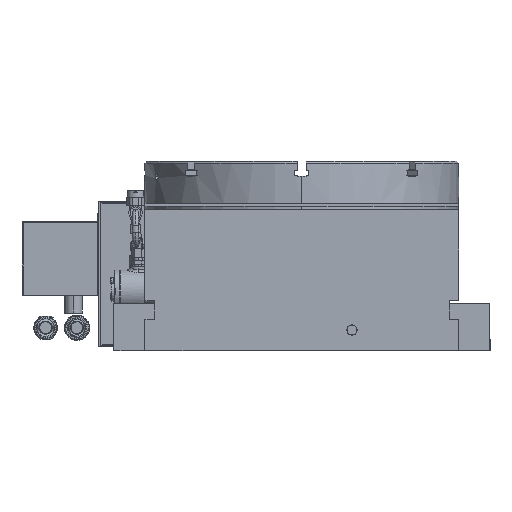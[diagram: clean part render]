
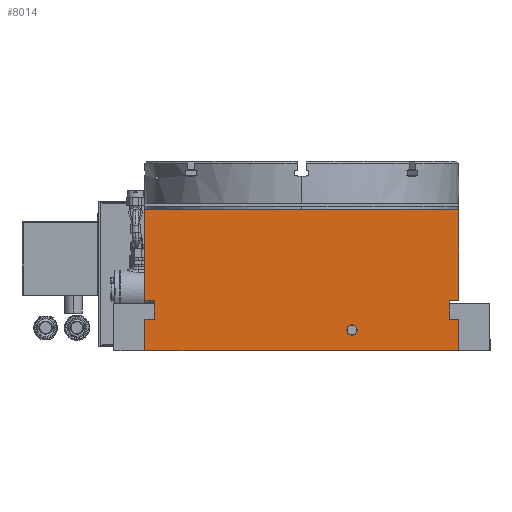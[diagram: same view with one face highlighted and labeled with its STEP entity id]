
A CAD part, left-side view. The second image highlights one B-rep face of the part: STEP entity #8014.
In plain terms, the highlighted planar face has unit normal (-1, 0, 0).
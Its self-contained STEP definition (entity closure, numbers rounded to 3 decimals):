
#106 = VERTEX_POINT ( 'NONE', #33203 ) ;
#201 = AXIS2_PLACEMENT_3D ( 'NONE', #4192, #27885, #41044 ) ;
#878 = EDGE_CURVE ( 'NONE', #12584, #15006, #23550, .T. ) ;
#1441 = CARTESIAN_POINT ( 'NONE',  ( -250., -80., -62. ) ) ;
#2326 = LINE ( 'NONE', #41580, #28824 ) ;
#2517 = CARTESIAN_POINT ( 'NONE',  ( -250., -250., -95. ) ) ;
#3920 = ORIENTED_EDGE ( 'NONE', *, *, #8910, .F. ) ;
#4116 = CARTESIAN_POINT ( 'NONE',  ( -250., 250., -95. ) ) ;
#4192 = CARTESIAN_POINT ( 'NONE',  ( -250., 250., -95. ) ) ;
#4542 = CARTESIAN_POINT ( 'NONE',  ( -250., 250., -95. ) ) ;
#4824 = PLANE ( 'NONE',  #201 ) ;
#4911 = DIRECTION ( 'NONE',  ( 0., 0., 1. ) ) ;
#5197 = CARTESIAN_POINT ( 'NONE',  ( -250., -235., -45. ) ) ;
#5492 = LINE ( 'NONE', #32242, #7573 ) ;
#6242 = VERTEX_POINT ( 'NONE', #5197 ) ;
#6752 = CARTESIAN_POINT ( 'NONE',  ( -250., -250., -95. ) ) ;
#6787 = ORIENTED_EDGE ( 'NONE', *, *, #32189, .T. ) ;
#7038 = ORIENTED_EDGE ( 'NONE', *, *, #16305, .T. ) ;
#7176 = ORIENTED_EDGE ( 'NONE', *, *, #31126, .F. ) ;
#7202 = EDGE_CURVE ( 'NONE', #32414, #21957, #18889, .T. ) ;
#7573 = VECTOR ( 'NONE', #19292, 1000. ) ;
#7742 = CARTESIAN_POINT ( 'NONE',  ( -250., 250., -45. ) ) ;
#8014 = ADVANCED_FACE ( 'NONE', ( #17340, #33753 ), #4824, .F. ) ;
#8346 = DIRECTION ( 'NONE',  ( 0., -1., 0. ) ) ;
#8674 = CARTESIAN_POINT ( 'NONE',  ( -250., 250., -95. ) ) ;
#8910 = EDGE_CURVE ( 'NONE', #34027, #24958, #2326, .T. ) ;
#9707 = ORIENTED_EDGE ( 'NONE', *, *, #25030, .T. ) ;
#10018 = CARTESIAN_POINT ( 'NONE',  ( -250., -250., -15. ) ) ;
#10919 = DIRECTION ( 'NONE',  ( -1., 0., 0. ) ) ;
#12155 = VECTOR ( 'NONE', #8346, 1000. ) ;
#12584 = VERTEX_POINT ( 'NONE', #8674 ) ;
#12914 = VECTOR ( 'NONE', #37548, 1000. ) ;
#13067 = DIRECTION ( 'NONE',  ( 0., 0., -1. ) ) ;
#13392 = DIRECTION ( 'NONE',  ( 0., 0., 1. ) ) ;
#13696 = LINE ( 'NONE', #30078, #31518 ) ;
#14185 = DIRECTION ( 'NONE',  ( -1., 0., 0. ) ) ;
#14391 = CARTESIAN_POINT ( 'NONE',  ( -250., 0., 130. ) ) ;
#14817 = VERTEX_POINT ( 'NONE', #33107 ) ;
#14893 = LINE ( 'NONE', #4542, #12914 ) ;
#15006 = VERTEX_POINT ( 'NONE', #7742 ) ;
#15221 = ORIENTED_EDGE ( 'NONE', *, *, #28356, .T. ) ;
#15684 = LINE ( 'NONE', #2517, #16268 ) ;
#15758 = CARTESIAN_POINT ( 'NONE',  ( -250., -80., -53.669 ) ) ;
#15948 = ORIENTED_EDGE ( 'NONE', *, *, #34244, .F. ) ;
#16268 = VECTOR ( 'NONE', #31433, 1000. ) ;
#16305 = EDGE_CURVE ( 'NONE', #12584, #35945, #14893, .T. ) ;
#17259 = DIRECTION ( 'NONE',  ( 0., 0., 1. ) ) ;
#17340 = FACE_BOUND ( 'NONE', #26064, .T. ) ;
#17883 = DIRECTION ( 'NONE',  ( 0., -1., 0. ) ) ;
#18057 = CARTESIAN_POINT ( 'NONE',  ( -250., -80., -62. ) ) ;
#18282 = CARTESIAN_POINT ( 'NONE',  ( -250., -235., -15. ) ) ;
#18356 = CARTESIAN_POINT ( 'NONE',  ( -250., -250., -45. ) ) ;
#18889 = LINE ( 'NONE', #42202, #36631 ) ;
#18974 = CIRCLE ( 'NONE', #38942, 8.331 ) ;
#19025 = VECTOR ( 'NONE', #13392, 1000. ) ;
#19122 = DIRECTION ( 'NONE',  ( 0., 0., 1. ) ) ;
#19160 = EDGE_CURVE ( 'NONE', #6242, #30346, #38312, .T. ) ;
#19292 = DIRECTION ( 'NONE',  ( 0., 1., 0. ) ) ;
#19345 = ORIENTED_EDGE ( 'NONE', *, *, #41696, .F. ) ;
#19529 = ORIENTED_EDGE ( 'NONE', *, *, #35771, .T. ) ;
#21957 = VERTEX_POINT ( 'NONE', #25512 ) ;
#22155 = ORIENTED_EDGE ( 'NONE', *, *, #19160, .F. ) ;
#23550 = LINE ( 'NONE', #24177, #29065 ) ;
#24177 = CARTESIAN_POINT ( 'NONE',  ( -250., 250., -95. ) ) ;
#24515 = LINE ( 'NONE', #4116, #30193 ) ;
#24958 = VERTEX_POINT ( 'NONE', #39680 ) ;
#25030 = EDGE_CURVE ( 'NONE', #39590, #41949, #30831, .T. ) ;
#25512 = CARTESIAN_POINT ( 'NONE',  ( -250., 235., -15. ) ) ;
#25976 = AXIS2_PLACEMENT_3D ( 'NONE', #1441, #10919, #37032 ) ;
#26064 = EDGE_LOOP ( 'NONE', ( #32306, #7176 ) ) ;
#27299 = VECTOR ( 'NONE', #13067, 1000. ) ;
#27885 = DIRECTION ( 'NONE',  ( 1., 0., 0. ) ) ;
#27921 = ORIENTED_EDGE ( 'NONE', *, *, #40006, .F. ) ;
#28356 = EDGE_CURVE ( 'NONE', #32414, #15006, #5492, .T. ) ;
#28550 = DIRECTION ( 'NONE',  ( 0., -1., 0. ) ) ;
#28824 = VECTOR ( 'NONE', #35332, 1000. ) ;
#29065 = VECTOR ( 'NONE', #37341, 1000. ) ;
#29431 = CIRCLE ( 'NONE', #25976, 8.331 ) ;
#29508 = VERTEX_POINT ( 'NONE', #33876 ) ;
#29822 = ORIENTED_EDGE ( 'NONE', *, *, #7202, .F. ) ;
#29880 = CARTESIAN_POINT ( 'NONE',  ( -250., -235., -15. ) ) ;
#30078 = CARTESIAN_POINT ( 'NONE',  ( -250., 250., 130. ) ) ;
#30193 = VECTOR ( 'NONE', #17259, 1000. ) ;
#30346 = VERTEX_POINT ( 'NONE', #18356 ) ;
#30831 = LINE ( 'NONE', #18282, #38488 ) ;
#31126 = EDGE_CURVE ( 'NONE', #106, #33231, #18974, .T. ) ;
#31433 = DIRECTION ( 'NONE',  ( 0., 0., 1. ) ) ;
#31518 = VECTOR ( 'NONE', #39371, 1000. ) ;
#31580 = CARTESIAN_POINT ( 'NONE',  ( -250., 250., -15. ) ) ;
#32046 = CARTESIAN_POINT ( 'NONE',  ( -250., -235., -45. ) ) ;
#32189 = EDGE_CURVE ( 'NONE', #35945, #30346, #15684, .T. ) ;
#32242 = CARTESIAN_POINT ( 'NONE',  ( -250., 250., -45. ) ) ;
#32306 = ORIENTED_EDGE ( 'NONE', *, *, #32817, .F. ) ;
#32414 = VERTEX_POINT ( 'NONE', #35746 ) ;
#32817 = EDGE_CURVE ( 'NONE', #33231, #106, #29431, .T. ) ;
#32829 = CARTESIAN_POINT ( 'NONE',  ( -250., -250., -95. ) ) ;
#33107 = CARTESIAN_POINT ( 'NONE',  ( -250., 250., -15. ) ) ;
#33203 = CARTESIAN_POINT ( 'NONE',  ( -250., -80., -70.331 ) ) ;
#33231 = VERTEX_POINT ( 'NONE', #15758 ) ;
#33636 = EDGE_LOOP ( 'NONE', ( #29822, #15221, #40145, #7038, #6787, #22155, #27921, #9707, #33828, #3920, #15948, #19345, #19529 ) ) ;
#33753 = FACE_OUTER_BOUND ( 'NONE', #33636, .T. ) ;
#33828 = ORIENTED_EDGE ( 'NONE', *, *, #40239, .T. ) ;
#33876 = CARTESIAN_POINT ( 'NONE',  ( -250., 250., 130. ) ) ;
#34027 = VERTEX_POINT ( 'NONE', #14391 ) ;
#34244 = EDGE_CURVE ( 'NONE', #29508, #34027, #13696, .T. ) ;
#35092 = VECTOR ( 'NONE', #28550, 1000. ) ;
#35332 = DIRECTION ( 'NONE',  ( 0., -1., 0. ) ) ;
#35440 = LINE ( 'NONE', #31580, #35092 ) ;
#35746 = CARTESIAN_POINT ( 'NONE',  ( -250., 235., -45. ) ) ;
#35771 = EDGE_CURVE ( 'NONE', #14817, #21957, #35440, .T. ) ;
#35945 = VERTEX_POINT ( 'NONE', #6752 ) ;
#36631 = VECTOR ( 'NONE', #19122, 1000. ) ;
#36709 = LINE ( 'NONE', #32829, #19025 ) ;
#36822 = CARTESIAN_POINT ( 'NONE',  ( -250., -235., -15. ) ) ;
#37032 = DIRECTION ( 'NONE',  ( 0., 0., 1. ) ) ;
#37341 = DIRECTION ( 'NONE',  ( 0., 0., 1. ) ) ;
#37548 = DIRECTION ( 'NONE',  ( 0., -1., 0. ) ) ;
#38312 = LINE ( 'NONE', #32046, #12155 ) ;
#38488 = VECTOR ( 'NONE', #17883, 1000. ) ;
#38942 = AXIS2_PLACEMENT_3D ( 'NONE', #18057, #14185, #4911 ) ;
#39371 = DIRECTION ( 'NONE',  ( 0., -1., 0. ) ) ;
#39590 = VERTEX_POINT ( 'NONE', #36822 ) ;
#39680 = CARTESIAN_POINT ( 'NONE',  ( -250., -250., 130. ) ) ;
#40006 = EDGE_CURVE ( 'NONE', #39590, #6242, #42611, .T. ) ;
#40145 = ORIENTED_EDGE ( 'NONE', *, *, #878, .F. ) ;
#40239 = EDGE_CURVE ( 'NONE', #41949, #24958, #36709, .T. ) ;
#41044 = DIRECTION ( 'NONE',  ( 0., 0., -1. ) ) ;
#41580 = CARTESIAN_POINT ( 'NONE',  ( -250., 250., 130. ) ) ;
#41696 = EDGE_CURVE ( 'NONE', #14817, #29508, #24515, .T. ) ;
#41949 = VERTEX_POINT ( 'NONE', #10018 ) ;
#42202 = CARTESIAN_POINT ( 'NONE',  ( -250., 235., -95. ) ) ;
#42611 = LINE ( 'NONE', #29880, #27299 ) ;
